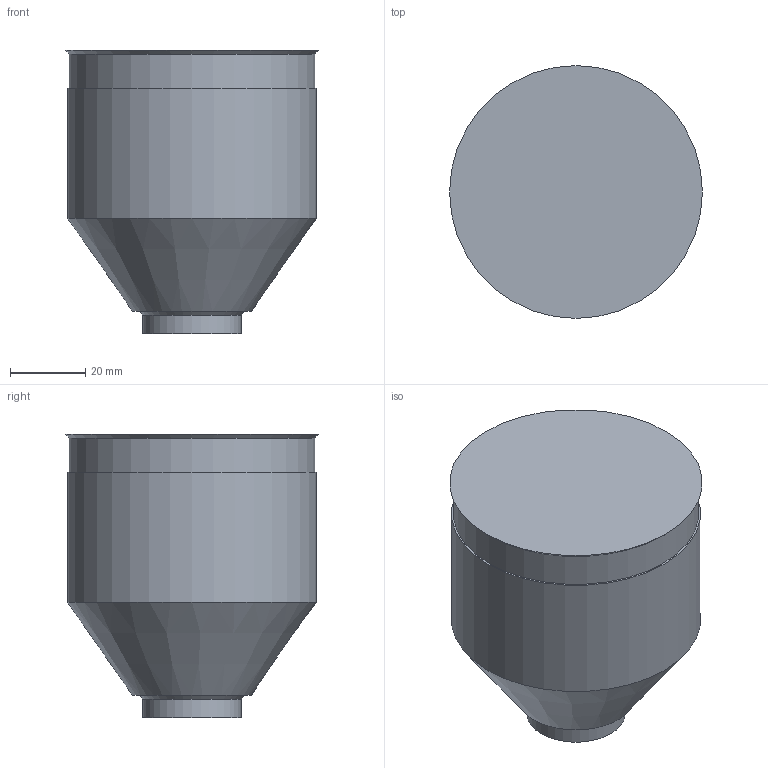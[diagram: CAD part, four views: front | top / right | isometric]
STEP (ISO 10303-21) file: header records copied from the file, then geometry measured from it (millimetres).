
FILE_DESCRIPTION(('STEP AP214'),'1');
FILE_NAME('SEDE IPM5000-C.stp','2018-06-13T08:38:54',(' '),(' '),'Spatial InterOp 3D',' ',' ');
FILE_SCHEMA(('AUTOMOTIVE_DESIGN { 1 0 10303 214 1 1 1 1 }'));
Length unit declared in the file: millimetre
Products named in the file (1): 1
Bounding box: 67 x 67 x 75 mm (x, y, z)
Volume: 202274.4 mm3; surface area: 18726.4 mm2
Topology: 1 solids, 1 shells, 10 faces, 15 edges, 9 vertices
Faces by surface type: plane 4, cylinder 3, cone 3
Full cylindrical faces by diameter (mm): 26 x1, 65 x1, 66 x1
Entity records: 291 total; most frequent: DIRECTION 40, CARTESIAN_POINT 29, AXIS2_PLACEMENT_3D 20, EDGE_LOOP 18, ORIENTED_EDGE 18, FACE_OUTER_BOUND 13, STYLED_ITEM 10, PRESENTATION_STYLE_ASSIGNMENT 10
